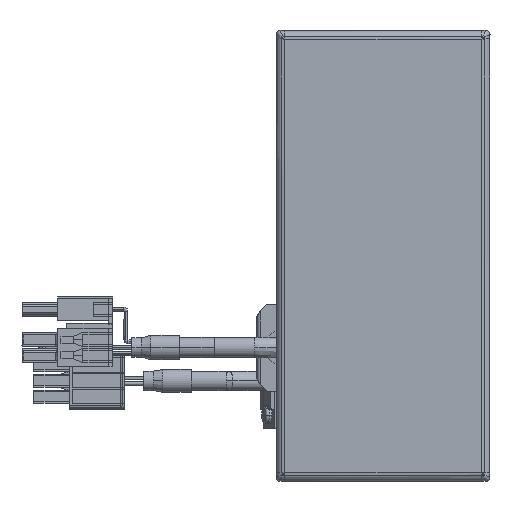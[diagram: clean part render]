
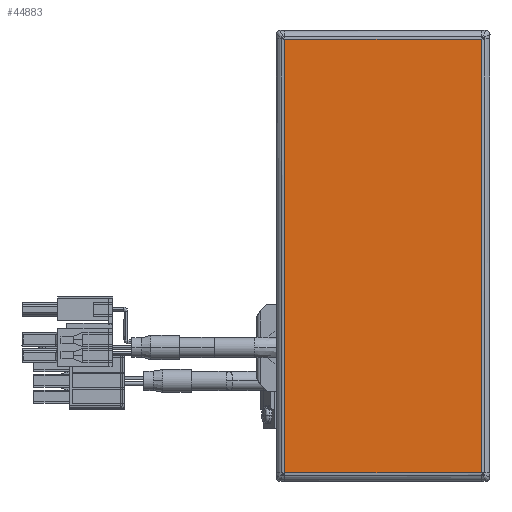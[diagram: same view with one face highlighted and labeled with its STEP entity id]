
A CAD part, top view. The second image highlights one B-rep face of the part: STEP entity #44883.
In plain terms, the highlighted planar face has unit normal (0, 0, 1) as drawn and (0, 0, -1) by its records, which use the part's own axes.
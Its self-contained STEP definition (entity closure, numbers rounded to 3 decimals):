
#1707 = CARTESIAN_POINT ( 'NONE',  ( 56.793, -25.763, -1.5 ) ) ;
#2600 = VECTOR ( 'NONE', #21883, 1000. ) ;
#3578 = EDGE_CURVE ( 'NONE', #58411, #20999, #4238, .T. ) ;
#4238 = LINE ( 'NONE', #1707, #59877 ) ;
#5065 = LINE ( 'NONE', #11244, #41876 ) ;
#6025 = CARTESIAN_POINT ( 'NONE',  ( -56.793, 25.763, -1.5 ) ) ;
#6897 = EDGE_LOOP ( 'NONE', ( #27706, #19430, #16470, #28291 ) ) ;
#7390 = FACE_OUTER_BOUND ( 'NONE', #6897, .T. ) ;
#7935 = CARTESIAN_POINT ( 'NONE',  ( 56.763, 25.793, -1.5 ) ) ;
#10390 = VERTEX_POINT ( 'NONE', #28794 ) ;
#10674 = DIRECTION ( 'NONE',  ( 1., 0., 0. ) ) ;
#11244 = CARTESIAN_POINT ( 'NONE',  ( -56.763, -25.793, -1.5 ) ) ;
#11509 = EDGE_CURVE ( 'NONE', #20999, #50180, #5065, .T. ) ;
#14904 = LINE ( 'NONE', #7935, #2600 ) ;
#16470 = ORIENTED_EDGE ( 'NONE', *, *, #11509, .T. ) ;
#19430 = ORIENTED_EDGE ( 'NONE', *, *, #3578, .T. ) ;
#20359 = DIRECTION ( 'NONE',  ( -1., 0., 0. ) ) ;
#20999 = VERTEX_POINT ( 'NONE', #44835 ) ;
#21883 = DIRECTION ( 'NONE',  ( 0., -1., 0. ) ) ;
#24194 = DIRECTION ( 'NONE',  ( 0., 0., -1. ) ) ;
#26617 = AXIS2_PLACEMENT_3D ( 'NONE', #56239, #24194, #56456 ) ;
#27706 = ORIENTED_EDGE ( 'NONE', *, *, #41329, .T. ) ;
#28291 = ORIENTED_EDGE ( 'NONE', *, *, #39087, .T. ) ;
#28794 = CARTESIAN_POINT ( 'NONE',  ( 56.763, 25.763, -1.5 ) ) ;
#36083 = LINE ( 'NONE', #6025, #48353 ) ;
#37873 = PLANE ( 'NONE',  #26617 ) ;
#39087 = EDGE_CURVE ( 'NONE', #50180, #10390, #36083, .T. ) ;
#41329 = EDGE_CURVE ( 'NONE', #10390, #58411, #14904, .T. ) ;
#41876 = VECTOR ( 'NONE', #43520, 1000. ) ;
#42218 = CARTESIAN_POINT ( 'NONE',  ( 56.763, -25.763, -1.5 ) ) ;
#43520 = DIRECTION ( 'NONE',  ( 0., 1., 0. ) ) ;
#44835 = CARTESIAN_POINT ( 'NONE',  ( -56.763, -25.763, -1.5 ) ) ;
#44883 = ADVANCED_FACE ( 'NONE', ( #7390 ), #37873, .T. ) ;
#48353 = VECTOR ( 'NONE', #10674, 1000. ) ;
#49344 = CARTESIAN_POINT ( 'NONE',  ( -56.763, 25.763, -1.5 ) ) ;
#50180 = VERTEX_POINT ( 'NONE', #49344 ) ;
#56239 = CARTESIAN_POINT ( 'NONE',  ( 0., 0., -1.5 ) ) ;
#56456 = DIRECTION ( 'NONE',  ( -1., 0., 0. ) ) ;
#58411 = VERTEX_POINT ( 'NONE', #42218 ) ;
#59877 = VECTOR ( 'NONE', #20359, 1000. ) ;
